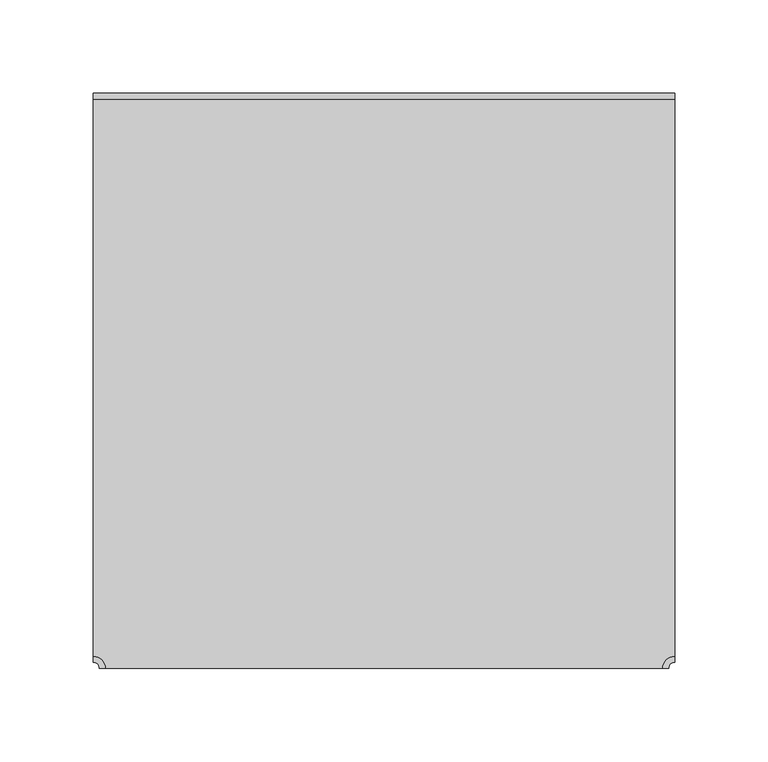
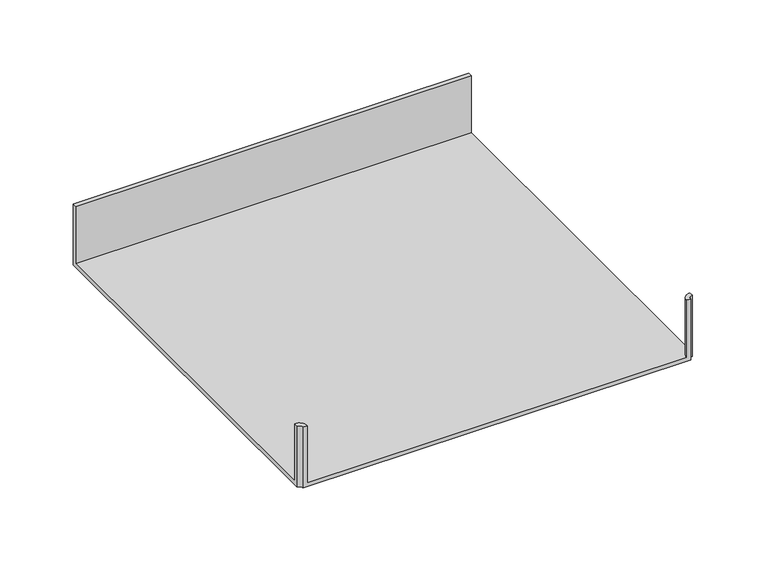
"""IFC4 building model written with IfcOpenShell, lengths in millimetres: cable carrier fitting geometry, Tee-Cablofil-Wire_Mesh_Cable_Tray : EZ T 90 KIT."""

from ifc_helpers import new_model, si_unit, frame, origin, place, context, project, spatial, polyline, circle_curve, source, transform, mapped, element, save
from ifc_brep_helpers import plane_surface, cylinder_surface, revolved_surface, advanced_brep


def cable_carrier_fitting_1d7cee85(model_context):
    return source(origin(), model_context, "Body", "AdvancedBrep", [
        advanced_brep(
        [(-152.4, -155.575, 25.4), (-149.225, -155.575, 25.4), (-155.575, -149.225, 25.4), (-155.575, -152.4, 25.4), (152.4, -155.575, 25.4), (155.575, -152.4, 25.4), (155.575, -149.225, 25.4), (149.225, -155.575, 25.4), (155.575, 152.4, 25.4), (-155.575, 152.4, 25.4), (-155.575, 149.225, 25.4), (155.575, 149.225, 25.4), (-152.4, -155.575, -25.4), (-155.575, -152.4, -25.4), (-155.575, 152.4, -25.4), (155.575, 152.4, -25.4), (155.575, -152.4, -25.4), (152.4, -155.575, -25.4), (149.225, -155.575, -22.225), (-149.225, -155.575, -22.225), (-155.575, -149.225, -22.225), (-155.575, 149.225, -22.225), (155.575, 149.225, -22.225), (155.575, -149.225, -22.225)],
        [
            (0, 1),
            (1, 2, circle_curve(frame((-155.575, -155.575, 25.4), z_axis=(0.0, 0.0, 1.0), x_axis=(1.0, 0.0, 0.0)), 6.35)),
            (2, 3),
            (3, 0, circle_curve(frame((-155.575, -155.575, 25.4), z_axis=(0.0, 0.0, -1.0), x_axis=(1.0, 0.0, 0.0)), 3.175)),
            (4, 5, circle_curve(frame((155.575, -155.575, 25.4), z_axis=(0.0, 0.0, -1.0), x_axis=(1.0, 0.0, 0.0)), 3.175)),
            (5, 6),
            (6, 7, circle_curve(frame((155.575, -155.575, 25.4), z_axis=(0.0, 0.0, 1.0), x_axis=(1.0, 0.0, 0.0)), 6.35)),
            (7, 4),
            (8, 9),
            (9, 10),
            (10, 11),
            (11, 8),
            (12, 13, circle_curve(frame((-155.575, -155.575, -25.4), z_axis=(0.0, 0.0, 1.0), x_axis=(1.0, 0.0, 0.0)), 3.175)),
            (13, 14),
            (14, 15),
            (15, 16),
            (16, 17, circle_curve(frame((155.575, -155.575, -25.4), z_axis=(0.0, 0.0, 1.0), x_axis=(1.0, 0.0, 0.0)), 3.175)),
            (17, 12),
            (0, 12),
            (17, 4),
            (7, 18),
            (18, 19),
            (19, 1),
            (19, 20, circle_curve(frame((-155.575, -155.575, -22.225), z_axis=(0.0, 0.0, 1.0), x_axis=(1.0, 0.0, 0.0)), 6.35)),
            (20, 2),
            (20, 21),
            (21, 10),
            (9, 14),
            (13, 3),
            (16, 5),
            (15, 8),
            (11, 22),
            (22, 23),
            (23, 6),
            (23, 18, circle_curve(frame((155.575, -155.575, -22.225), z_axis=(0.0, 0.0, 1.0), x_axis=(1.0, 0.0, 0.0)), 6.35)),
            (21, 22),
        ],
        [
            plane_surface(frame((-152.4, -155.575, 25.4), z_axis=(0.0, 0.0, 1.0), x_axis=(1.0, 0.0, 0.0))),
            plane_surface(frame((-152.4, -155.575, -25.4), z_axis=(0.0, 0.0, -1.0), x_axis=(-1.0, 0.0, 0.0))),
            plane_surface(frame((-152.4, -155.575, 25.4), z_axis=(0.0, -1.0, 0.0), x_axis=(0.0, 0.0, -1.0))),
            cylinder_surface(frame((-155.575, -155.575, -25.4), z_axis=(0.0, 0.0, 1.0), x_axis=(1.0, 0.0, 0.0)), 6.35),
            plane_surface(frame((-155.575, -149.225, 25.4), z_axis=(-1.0, 0.0, 0.0), x_axis=(0.0, 0.0, -1.0))),
            revolved_surface(polyline([(-152.39999999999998, -155.575, -25.4), (-152.39999999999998, -155.575, 25.4)]), (-155.575, -155.575, -25.4), (0.0, 0.0, -1.0)),
            revolved_surface(polyline([(158.75, -155.575, -25.4), (158.75, -155.575, 25.4)]), (155.575, -155.575, 0.0), (0.0, 0.0, -1.0)),
            plane_surface(frame((155.575, -152.4, 25.4), z_axis=(1.0, 0.0, 0.0), x_axis=(0.0, 0.0, -1.0))),
            cylinder_surface(frame((155.575, -155.575, 0.0), z_axis=(0.0, 0.0, 1.0), x_axis=(1.0, 0.0, 0.0)), 6.35),
            plane_surface(frame((155.575, 152.4, 25.4), z_axis=(0.0, 1.0, 0.0), x_axis=(0.0, 0.0, -1.0))),
            plane_surface(frame((-155.575, 149.225, 25.4), z_axis=(0.0, -1.0, 0.0), x_axis=(0.0, 0.0, -1.0))),
            plane_surface(frame((-152.4, -155.575, -22.225), z_axis=(0.0, 0.0, 1.0), x_axis=(1.0, 0.0, 0.0))),
        ],
        [
            (0, [[1, 2, 3, 4]]),
            (0, [[5, 6, 7, 8]]),
            (0, [[9, 10, 11, 12]]),
            (1, [[13, 14, 15, 16, 17, 18]]),
            (2, [[-1, 19, -18, 20, -8, 21, 22, 23]]),
            (3, [[-2, -23, 24, 25]]),
            (4, [[-3, -25, 26, 27, -10, 28, -14, 29]]),
            (5, [[-19, -4, -29, -13]]),
            (6, [[30, -5, -20, -17]]),
            (7, [[-6, -30, -16, 31, -12, 32, 33, 34]]),
            (8, [[-7, -34, 35, -21]]),
            (9, [[-28, -9, -31, -15]]),
            (10, [[-11, -27, 36, -32]]),
            (11, [[-22, -35, -33, -36, -26, -24]]),
        ],
    ),
    ])


if __name__ == "__main__":
    model = new_model("IFC4")
    model_context = context("Model", 3, world=origin())
    ifc_project = project(units=[si_unit("LENGTHUNIT", "METRE", prefix="MILLI")], contexts=[model_context])
    site = spatial("IfcSite", under=ifc_project)
    building = spatial("IfcBuilding", under=site)
    placement = place(None, origin())
    cable_carrier_fitting_shape = cable_carrier_fitting_1d7cee85(model_context)
    element("IfcCableCarrierFitting", 1, ObjectType="Tee-Cablofil-Wire_Mesh_Cable_Tray : EZ T 90 KIT", at=placement, inside=building, context=model_context, shape_type="MappedRepresentation", body=[
        mapped(cable_carrier_fitting_shape, transform((0.0, 0.0, 0.0), x_axis=(1.0, 0.0, 0.0), y_axis=(0.0, 1.0, 0.0), z_axis=(0.0, 0.0, 1.0))),
    ])
    save(model, "model.ifc")
